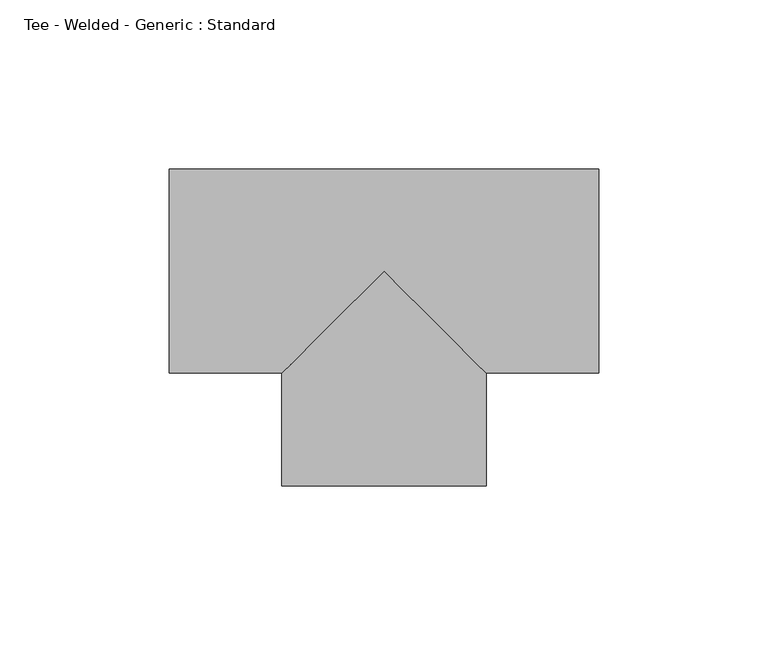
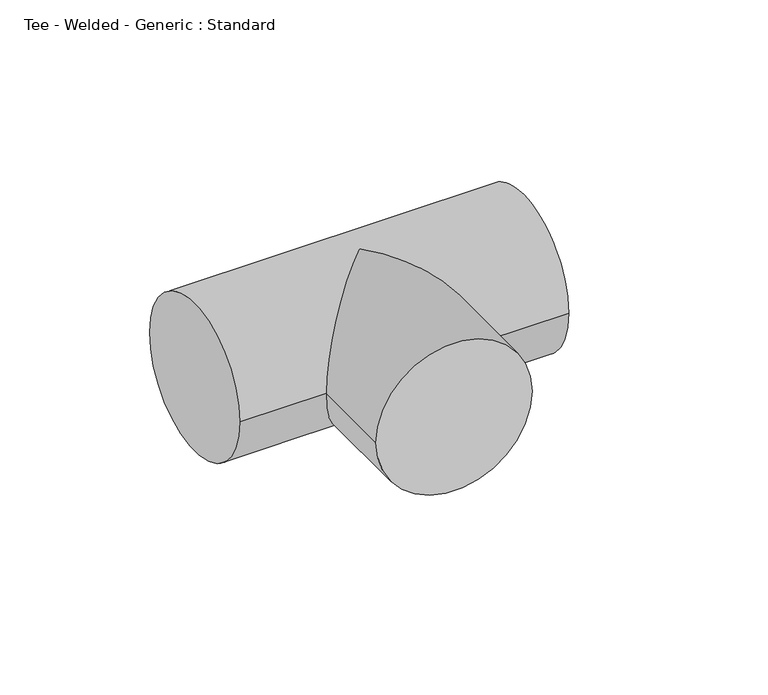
"""IFC4 building model written with IfcOpenShell, lengths in millimetres: pipe fitting geometry, Tee - Welded - Generic : Standard."""

import ifcopenshell
import ifcopenshell.guid

model = None  # the IFC model being written
_history = None  # IfcOwnerHistory: only IFC2X3 demands one
_inside = {}  # id of a spatial element -> (the spatial element, [elements in it])
_under = {}  # id of a project, library or spatial element -> (it, [spatial elements below it])
_declared = {}  # id of a project -> (the project, [libraries it declares])
_typed = {}  # id of a type object -> (the type object, [elements of that type])
_made_of = {}  # id of a material, layer set ... -> (it, [elements and type objects made of it])


def new_model(schema):
    """Start an empty IFC model of exactly this schema.

    Asked for "IFC4X3", IfcOpenShell would pick the latest addendum, in which some entities
    have other attributes; the version numbers below select the first issue.
    IFC2X3 requires an IfcOwnerHistory on every rooted entity: one is made here for all.
    """
    global model, _history
    if schema == "IFC4X3":
        model = ifcopenshell.file(schema_version=(4, 3, 0, 0))
    else:
        model = ifcopenshell.file(schema=schema)
    _inside.clear()
    _under.clear()
    _declared.clear()
    _typed.clear()
    _made_of.clear()
    _history = None
    if model.schema == "IFC2X3":
        org = make("IfcOrganization", Name="unknown")
        user = make(
            "IfcPersonAndOrganization",
            ThePerson=make("IfcPerson", FamilyName="unknown"),
            TheOrganization=org,
        )
        app = make(
            "IfcApplication",
            ApplicationDeveloper=org,
            Version="unknown",
            ApplicationFullName="unknown",
            ApplicationIdentifier="unknown",
        )
        _history = make(
            "IfcOwnerHistory",
            OwningUser=user,
            OwningApplication=app,
            ChangeAction="ADDED",
            CreationDate=0,
        )
    return model


def make(cls, **values):
    """One entity of the class cls with the attributes given. An attribute that is None is left unset."""
    return model.create_entity(
        cls, **{name: value for name, value in values.items() if value is not None}
    )


def rooted(cls, **values):
    """An entity with a GlobalId (a new one), such as an element, a storey or a relation."""
    return make(cls, GlobalId=ifcopenshell.guid.new(), OwnerHistory=_history, **values)


def si_unit(unit_type, name, prefix=None):
    """IfcSIUnit, for example si_unit("LENGTHUNIT", "METRE", prefix="MILLI")."""
    return make("IfcSIUnit", UnitType=unit_type, Prefix=prefix, Name=name)


def assignment(units):
    """IfcUnitAssignment: the units of a project."""
    return None if units is None else make("IfcUnitAssignment", Units=units)


def point(xyz):
    """IfcCartesianPoint."""
    return None if xyz is None else make("IfcCartesianPoint", Coordinates=xyz)


def direction(xyz):
    """IfcDirection."""
    return None if xyz is None else make("IfcDirection", DirectionRatios=xyz)


def frame(location, z_axis=None, x_axis=None):
    """IfcAxis2Placement3D, a coordinate frame: its origin and axes. An axis left out is left unset."""
    return make(
        "IfcAxis2Placement3D",
        Location=point(location),
        Axis=direction(z_axis),
        RefDirection=direction(x_axis),
    )


def origin():
    """The frame at (0, 0, 0) with its axes left unset."""
    return frame((0.0, 0.0, 0.0))


def place(relative_to, where):
    """IfcLocalPlacement: puts the frame where relative to a parent placement (None: the world)."""
    return make(
        "IfcLocalPlacement", PlacementRelTo=relative_to, RelativePlacement=where
    )


def context(
    kind, dimensions, precision=None, world=None, true_north=None, identifier=None
):
    """IfcGeometricRepresentationContext, for example the 3D "Model" context."""
    return make(
        "IfcGeometricRepresentationContext",
        ContextIdentifier=identifier,
        ContextType=kind,
        CoordinateSpaceDimension=dimensions,
        Precision=precision,
        WorldCoordinateSystem=world,
        TrueNorth=true_north,
    )


def project(units=None, contexts=None):
    """IfcProject with its units and contexts."""
    return rooted(
        "IfcProject",
        Name="project",
        RepresentationContexts=contexts,
        UnitsInContext=assignment(units),
    )


def spatial(cls, under=None, at=None, **own):
    """A site, building, storey or space (cls), placed at a placement, below another one or the project."""
    s = rooted(cls, ObjectPlacement=at, **own)
    if under is not None:
        _under.setdefault(under.id(), (under, []))[1].append(s)
    return s


def circle_curve(where, radius):
    """IfcCircle in the frame where."""
    return make("IfcCircle", Position=where, Radius=radius)


def ellipse_curve(where, semi_axis1, semi_axis2):
    """IfcEllipse in the frame where."""
    return make(
        "IfcEllipse", Position=where, SemiAxis1=semi_axis1, SemiAxis2=semi_axis2
    )


def shape(context_of_items, identifier, shape_type, items):
    """IfcShapeRepresentation: the items that make up one representation, for example the "Body"."""
    return make(
        "IfcShapeRepresentation",
        ContextOfItems=context_of_items,
        RepresentationIdentifier=identifier,
        RepresentationType=shape_type,
        Items=items,
    )


def source(mapping_origin, context_of_items, identifier, shape_type, items):
    """IfcRepresentationMap: a shape defined once, which mapped items show again and again."""
    return make(
        "IfcRepresentationMap",
        MappingOrigin=mapping_origin,
        MappedRepresentation=shape(context_of_items, identifier, shape_type, items),
    )


def transform(
    local_origin,
    x_axis=None,
    y_axis=None,
    z_axis=None,
    scale=None,
    scale2=None,
    scale3=None,
    uniform=True,
):
    """IfcCartesianTransformationOperator3D, or its non-uniform kind. x_axis, y_axis, z_axis: its Axis1, 2, 3."""
    if uniform:
        return make(
            "IfcCartesianTransformationOperator3D",
            Axis1=direction(x_axis),
            Axis2=direction(y_axis),
            LocalOrigin=point(local_origin),
            Scale=scale,
            Axis3=direction(z_axis),
        )
    return make(
        "IfcCartesianTransformationOperator3DnonUniform",
        Axis1=direction(x_axis),
        Axis2=direction(y_axis),
        LocalOrigin=point(local_origin),
        Scale=scale,
        Axis3=direction(z_axis),
        Scale2=scale2,
        Scale3=scale3,
    )


def mapped(mapping_source, mapping_target):
    """IfcMappedItem: shows the shape of a source again, moved by a transform."""
    return make(
        "IfcMappedItem", MappingSource=mapping_source, MappingTarget=mapping_target
    )


def made_of(thing, what):
    """Note that an element or type object is made of a material, layer set ...; save() writes the relation."""
    if what is not None:
        _made_of.setdefault(what.id(), (what, []))[1].append(thing)
    return thing


def element(
    cls,
    number,
    at=None,
    inside=None,
    cuts=None,
    type_object=None,
    material=None,
    context=None,
    identifier="Body",
    shape_type=None,
    held_by="IfcProductDefinitionShape",
    body=None,
    shapes=None,
    **own,
):
    """One element of the class cls, such as IfcWall. Its Tag is "e" and its number.

    at: its placement. inside: the storey or other place that contains it. cuts: it is an
    opening in that element (IfcRelVoidsElement). A single representation is given by context,
    identifier, shape_type and body (its items); several are given by shapes. held_by: the class
    of the entity that holds the representations. save() writes the other relations.
    """
    e = rooted(cls, Tag="e%d" % number, ObjectPlacement=at, **own)
    if body is not None:
        shapes = [shape(context, identifier, shape_type, body)]
    if shapes is not None:
        e.Representation = make(held_by, Representations=shapes)
    if inside is not None:
        _inside.setdefault(inside.id(), (inside, []))[1].append(e)
    if cuts is not None:
        rooted(
            "IfcRelVoidsElement", RelatingBuildingElement=cuts, RelatedOpeningElement=e
        )
    if type_object is not None:
        _typed.setdefault(type_object.id(), (type_object, []))[1].append(e)
    return made_of(e, material)


def aggregate(whole, parts):
    """IfcRelAggregates: a whole, such as a stair, and the parts it consists of."""
    return rooted("IfcRelAggregates", RelatingObject=whole, RelatedObjects=parts)


def save(model, path):
    """Write the relations noted so far, then the file.

    IfcRelAggregates (storeys below a building ...), IfcRelContainedInSpatialStructure (elements
    in a storey), IfcRelDefinesByType, IfcRelAssociatesMaterial and IfcRelDeclares: one each for
    every whole, place, type object, material and project.
    """
    for whole, parts in _under.values():
        aggregate(whole, parts)
    for where, things in _inside.values():
        rooted(
            "IfcRelContainedInSpatialStructure",
            RelatedElements=things,
            RelatingStructure=where,
        )
    for kind, things in _typed.values():
        rooted("IfcRelDefinesByType", RelatedObjects=things, RelatingType=kind)
    for what, things in _made_of.values():
        rooted("IfcRelAssociatesMaterial", RelatedObjects=things, RelatingMaterial=what)
    for by, libraries in _declared.values():
        rooted("IfcRelDeclares", RelatingContext=by, RelatedDefinitions=libraries)
    model.write(path)


def plane_surface(at):
    """IfcPlane: the flat surface through the origin of the frame at, square to its z axis."""
    return make("IfcPlane", Position=at)


def cylinder_surface(at, radius):
    """IfcCylindricalSurface: all points at the distance radius from the z axis of the frame at."""
    return make("IfcCylindricalSurface", Position=at, Radius=radius)


def advanced_brep(points, edges, surfaces, faces):
    """IfcAdvancedBrep: a solid bounded by faces that lie on surfaces and meet in shared edges.

    An edge is (start, end): straight between two places in points (the first is 0);
    or (start, end, curve); or (start, end, curve, False) where it runs against its curve.
    A face is (place in surfaces, loops), or (place, loops, False) where it looks against
    its surface's normal. A loop lists edges by number (the first is 1), with a minus sign
    where the edge is run from its end to its start. The first loop is the outer one.
    """
    corners = [point(p) for p in points]
    vertices = [make("IfcVertexPoint", VertexGeometry=c) for c in corners]
    made = []
    for start, end, *more in edges:
        made.append(
            make(
                "IfcEdgeCurve",
                EdgeStart=vertices[start],
                EdgeEnd=vertices[end],
                EdgeGeometry=more[0] if more else make("IfcPolyline", Points=[corners[start], corners[end]]),
                SameSense=more[1] if len(more) > 1 else True,
            )
        )
    hull = []
    for where, loops, *sense in faces:
        bounds = []
        for j, loop in enumerate(loops):
            ring = [make("IfcOrientedEdge", EdgeElement=made[abs(k) - 1], Orientation=k > 0) for k in loop]
            bounds.append(
                make(
                    "IfcFaceOuterBound" if j == 0 else "IfcFaceBound",
                    Bound=make("IfcEdgeLoop", EdgeList=ring),
                    Orientation=True,
                )
            )
        hull.append(make("IfcAdvancedFace", Bounds=bounds, FaceSurface=surfaces[where], SameSense=sense[0] if sense else True))
    return make("IfcAdvancedBrep", Outer=make("IfcClosedShell", CfsFaces=hull))


def tee_welded_generic_standard_6982f6e1(model_context):
    return source(origin(), model_context, "Body", "AdvancedBrep", [
        advanced_brep(
        [(-63.5, -30.1625, 0.0), (-63.5, 30.1625, 0.0), (63.5, -30.1625, 0.0), (63.5, 30.1625, 0.0), (-30.1633633, -30.1625, 0.0), (0.0, 0.0, 30.1625), (30.1616367, -30.1625, 0.0), (0.0, 0.0, -30.1625), (-30.1643174, -63.4991367, 0.0), (30.1606826, -63.5008632, 0.0)],
        [
            (0, 1, circle_curve(frame((-63.5, 0.0, 0.0), z_axis=(-1.0, 0.0, 0.0), x_axis=(0.0, 1.0, 0.0)), 30.1625)),
            (1, 0, circle_curve(frame((-63.5, 0.0, 0.0), z_axis=(-1.0, 0.0, 0.0), x_axis=(0.0, 1.0, 0.0)), 30.1625)),
            (2, 3, circle_curve(frame((63.5, 0.0, 0.0), z_axis=(1.0, 0.0, 0.0), x_axis=(0.0, 1.0, 0.0)), 30.1625)),
            (3, 2, circle_curve(frame((63.5, 0.0, 0.0), z_axis=(1.0, 0.0, 0.0), x_axis=(0.0, 1.0, 0.0)), 30.1625)),
            (0, 4),
            (4, 5, ellipse_curve(frame((0.0, 0.0, 0.0), z_axis=(-0.7070966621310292, 0.7071169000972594, 0.0), x_axis=(-0.7071169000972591, -0.7070966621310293, 0.0)), 42.656827, 30.1625)),
            (5, 6, ellipse_curve(frame((0.0, 0.0, 0.0), z_axis=(0.7071169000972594, 0.7070966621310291, 0.0), x_axis=(-0.707096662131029, 0.7071169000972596, 0.0)), 42.6556062, 30.1625)),
            (6, 2),
            (3, 1),
            (6, 7, ellipse_curve(frame((0.0, 0.0, 0.0), z_axis=(0.7071169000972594, 0.7070966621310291, 0.0), x_axis=(-0.707096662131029, 0.7071169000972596, 0.0)), 42.6556062, 30.1625)),
            (7, 4, ellipse_curve(frame((0.0, 0.0, 0.0), z_axis=(-0.7070966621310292, 0.7071169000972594, 0.0), x_axis=(-0.7071169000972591, -0.7070966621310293, 0.0)), 42.656827, 30.1625)),
            (8, 9, circle_curve(frame((-0.0018174, -63.5, 0.0), z_axis=(-2.8620806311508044e-05, -0.9999999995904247, 0.0), x_axis=(0.9999999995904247, -2.8620806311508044e-05, 0.0)), 30.1625)),
            (9, 8, circle_curve(frame((-0.0018174, -63.5, 0.0), z_axis=(-2.8620806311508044e-05, -0.9999999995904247, 0.0), x_axis=(0.9999999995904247, -2.8620806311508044e-05, 0.0)), 30.1625)),
            (9, 6),
            (4, 8),
        ],
        [
            plane_surface(frame((-63.5, 0.0, 0.0), z_axis=(-1.0, 0.0, 0.0), x_axis=(0.0, 0.0, 1.0))),
            plane_surface(frame((63.5, 0.0, 0.0), z_axis=(1.0, 0.0, 0.0), x_axis=(0.0, 0.0, 1.0))),
            cylinder_surface(frame((-63.5, 0.0, 0.0), z_axis=(-1.0, 0.0, 0.0), x_axis=(0.0, 1.0, 0.0)), 30.1625),
            plane_surface(frame((-0.0018174, -63.5, 0.0), z_axis=(-2.8620806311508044e-05, -0.9999999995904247, 0.0), x_axis=(0.0, 0.0, 1.0))),
            cylinder_surface(frame((0.0, 0.0, 0.0), z_axis=(2.8620806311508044e-05, 0.9999999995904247, 0.0), x_axis=(0.9999999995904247, -2.8620806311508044e-05, 0.0)), 30.1625),
        ],
        [
            (0, [[1, 2]]),
            (1, [[3, 4]]),
            (2, [[-1, 5, 6, 7, 8, -4, 9]]),
            (2, [[-2, -9, -3, -8, 10, 11, -5]]),
            (3, [[12, 13]]),
            (4, [[-13, 14, -7, -6, 15]]),
            (4, [[-12, -15, -11, -10, -14]]),
        ],
    ),
    ])


if __name__ == "__main__":
    model = new_model("IFC4")
    model_context = context("Model", 3, world=origin())
    ifc_project = project(units=[si_unit("LENGTHUNIT", "METRE", prefix="MILLI")], contexts=[model_context])
    site = spatial("IfcSite", under=ifc_project)
    building = spatial("IfcBuilding", under=site)
    placement = place(None, origin())
    tee_welded_generic_standard_shape = tee_welded_generic_standard_6982f6e1(model_context)
    element("IfcPipeFitting", 1, ObjectType="Tee - Welded - Generic : Standard", at=placement, inside=building, context=model_context, shape_type="MappedRepresentation", body=[
        mapped(tee_welded_generic_standard_shape, transform((0.0, 0.0, 0.0), x_axis=(1.0, 0.0, 0.0), y_axis=(0.0, 1.0, 0.0), z_axis=(0.0, 0.0, 1.0))),
    ])
    save(model, "model.ifc")
